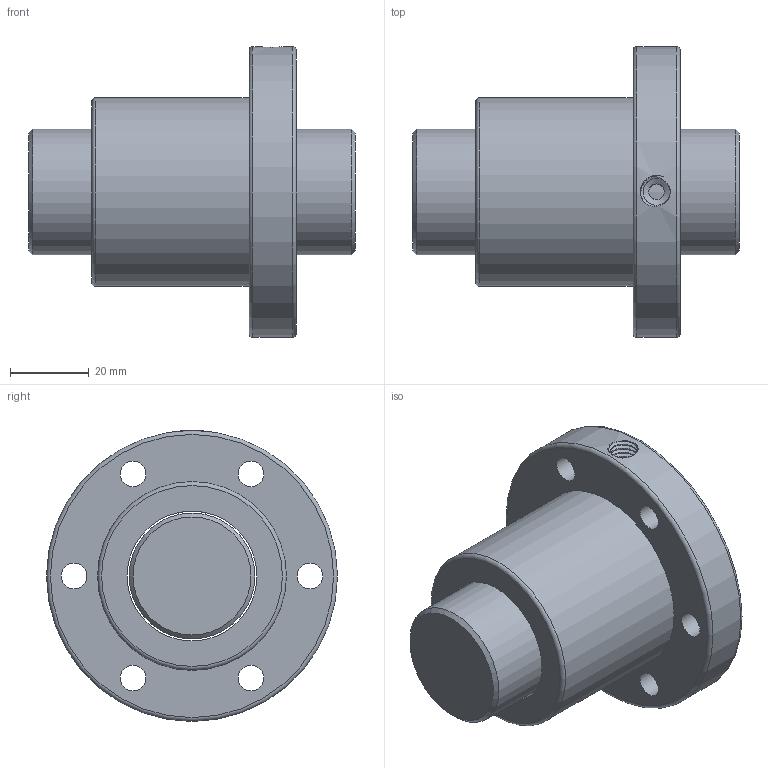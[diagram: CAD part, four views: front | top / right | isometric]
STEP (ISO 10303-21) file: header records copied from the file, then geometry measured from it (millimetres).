
FILE_DESCRIPTION(/* description */ ('Unknown','CAx-IF Rec.Pracs.---Representation and Presentation of Product Manufacturing Information (PMI)---4.0---2014-10-13','CAx-IF Rec.Pracs.---3D Tessellated Geometry---0.4---2014-09-14','2;1'),/* implementation_level */ '2;1');
FILE_NAME(/* name */ 'SFM0325T',/* time_stamp */ '2020-12-08T11:46:35+08:00',/* author */ ('Unknown'),/* organization */ ('Unknown'),/* preprocessor_version */ 'ST-DEVELOPER v16.7',/* originating_system */ 'Solid Edge',/* authorisation */ 'Unknown');
FILE_SCHEMA (('AP242_MANAGED_MODEL_BASED_3D_ENGINEERING_MIM_LF { 1 0 10303 442 1 1 4 }'));
Length unit declared in the file: millimetre
Products named in the file (1): SFM0325T
Bounding box: 83 x 74 x 74 mm (x, y, z)
Volume: 140731.7 mm3; surface area: 32705.6 mm2
Topology: 2 solids, 2 shells, 40 faces, 85 edges, 56 vertices
Faces by surface type: cylinder 20, plane 12, torus 3, cone 3, bspline 2
Full cylindrical faces by diameter (mm): 4 x1, 6.5 x6, 6.917 x1, 11 x6, 32 x1, 33 x1, 48 x1, 74 x1
Entity records: 2766 total; most frequent: CARTESIAN_POINT 1980, DIRECTION 162, ORIENTED_EDGE 106, EDGE_LOOP 87, FACE_BOUND 87, AXIS2_PLACEMENT_3D 81, EDGE_CURVE 53, VERTEX_POINT 48
